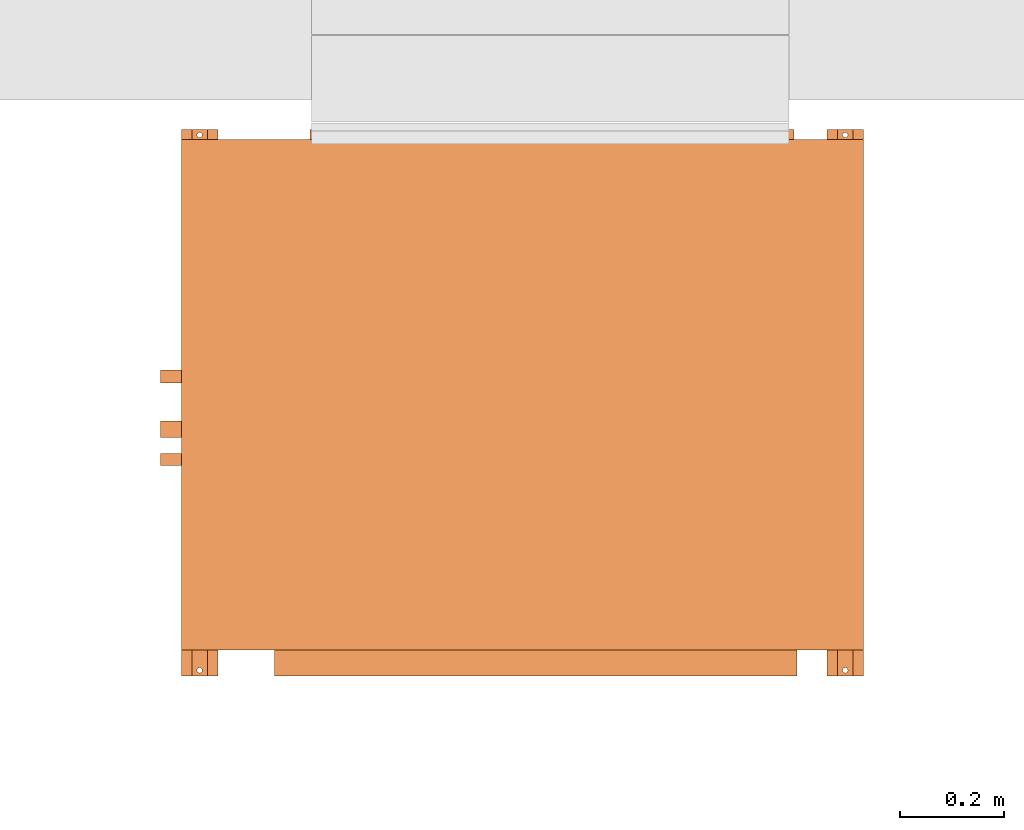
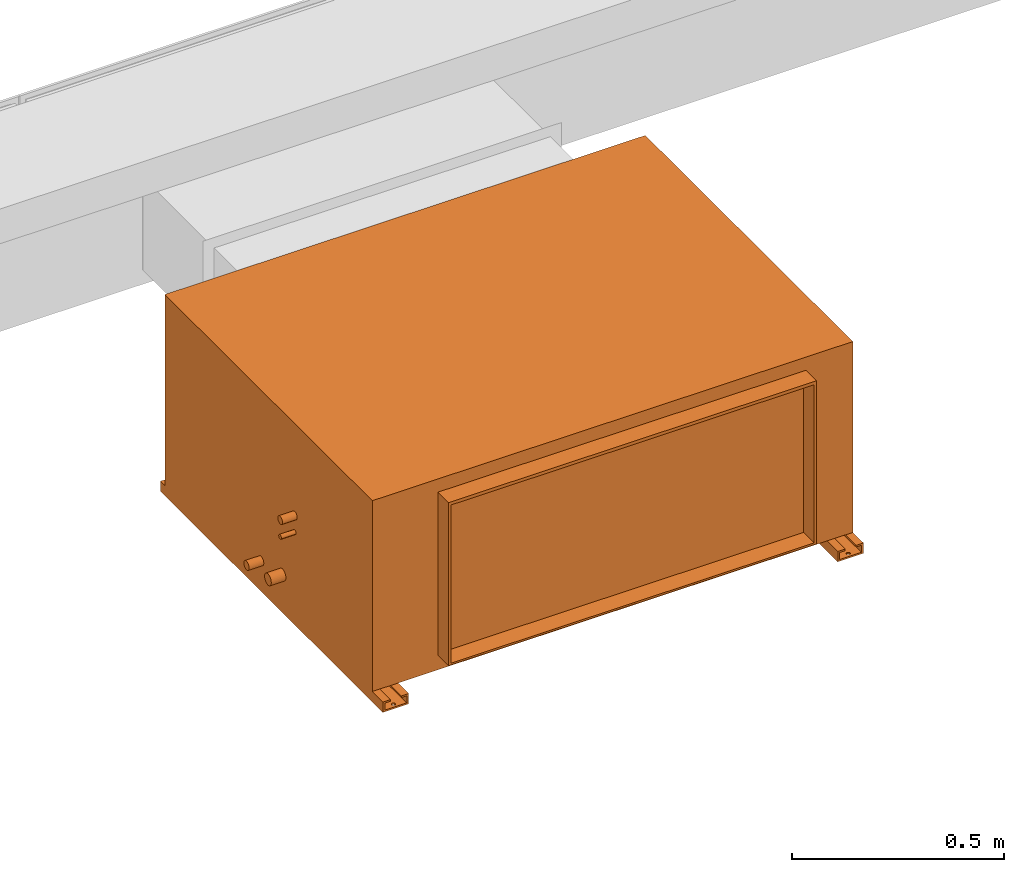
# One storey, part 12 of 15: 1 proxy, 4 openings.
"""IFC2X3 building model written with IfcOpenShell, lengths in millimetres."""

from ifc_helpers import new_model, entity, si_unit, converted_unit, derived_unit, direction, frame, frame_2d, origin, origin_2d_with_axis, place, context, subcontext, project, spatial, polyline, rectangle, circle, outline, extrude, source, transform, mapped, material, material_list, type_object, type_shapes, element, save


model = new_model("IFC2X3")

# Units and contexts
model_context = context("Model", 3, precision=0.01, world=origin(), true_north=direction((6.123233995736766e-17, 1.0)))
body_context = subcontext(model_context, "Body", "Model", "MODEL_VIEW")
ifc_project = project(units=[si_unit("LENGTHUNIT", "METRE", prefix="MILLI"), converted_unit("PLANEANGLEUNIT", "DEGREE", entity("IfcPlaneAngleMeasure", 0.017453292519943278), si_unit("PLANEANGLEUNIT", "RADIAN"), dimensions=[0, 0, 0, 0, 0, 0, 0]), si_unit("AREAUNIT", "SQUARE_METRE"), derived_unit("THERMALTRANSMITTANCEUNIT", [(si_unit("MASSUNIT", "GRAM", prefix="KILO"), 1), (si_unit("THERMODYNAMICTEMPERATUREUNIT", "KELVIN"), -1), (si_unit("TIMEUNIT", "SECOND"), -3)])], contexts=[model_context])

# Site, building, storey
site_placement = place(None, origin())
site = spatial("IfcSite", under=ifc_project, at=site_placement, Name="Default", CompositionType="ELEMENT")
building_placement = place(site_placement, origin())
building = spatial("IfcBuilding", under=site, at=building_placement, Name="Praça Pedro II, 1301 - Centro (Sul), Teresina - PI, 64001-100", CompositionType="ELEMENT")
storey_placement = place(building_placement, frame((0.0, 0.0, 3020.0)))
storey = spatial("IfcBuildingStorey", under=building, at=storey_placement, Name="1PAV", CompositionType="ELEMENT", Elevation=3020.0)

# Proxy, openings
ifc_material_1 = material(Name="Galvanized Steel")
ifc_material_2 = material(Name="grilles：ABS/HIPS")
ifc_material_list = material_list([ifc_material_1, ifc_material_2])
building_element_proxy_type = type_object("IfcBuildingElementProxyType", Name="V8 duto alta 20-33.5kW:28kW", PredefinedType="NOTDEFINED", material=ifc_material_list)
shared_shape = source(origin(), body_context, "Body", "SweptSolid", [
    extrude(outline(polyline([(-19.166666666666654, -35.0), (10.833333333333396, -35.0), (10.833333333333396, -15.0), (5.833333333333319, -15.0), (5.833333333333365, -30.0), (-14.166666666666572, -30.0), (-14.166666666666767, 30.0), (5.8333333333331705, 30.0), (5.833333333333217, 15.0), (10.83333333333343, 15.0), (10.833333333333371, 35.0), (-19.166666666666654, 35.0), (-19.166666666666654, -35.0)])), frame((-620.0, -475.0, 19.166666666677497), z_axis=(0.0, 1.0, 0.0), x_axis=(0.0, 0.0, 1.0)), (0.0, 0.0, 1.0), 1049.9999999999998),
    extrude(outline(polyline([(-35.0, -19.166666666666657), (35.0, -19.166666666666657), (35.0, 10.833333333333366), (15.0, 10.833333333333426), (15.0, 5.833333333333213), (30.0, 5.833333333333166), (30.0, -14.16666666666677), (-30.0, -14.166666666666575), (-30.0, 5.833333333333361), (-15.0, 5.833333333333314), (-15.0, 10.83333333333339), (-35.0, 10.83333333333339), (-35.0, -19.166666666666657)])), frame((620.0, -475.0, 19.16666666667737), z_axis=(0.0, 1.0, 0.0), x_axis=(-1.0, 0.0, 0.0)), (0.0, 0.0, 1.0), 1049.9999999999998),
    extrude(rectangle(XDim=1310.0000000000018, YDim=979.9999999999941, at=frame_2d((-7.389644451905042e-13, 98.0000000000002), x_axis=(1.0, 0.0))), frame((0.0, 133.0, 30.0), z_axis=(0.0, 0.0, 1.0), x_axis=(-1.0, 0.0, 0.0)), (0.0, 0.0, 1.0), 550.0000000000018),
    extrude(circle(Radius=16.0, at=frame_2d((0.0, -3.383959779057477e-14), x_axis=(1.0, 0.0))), frame((650.0, 101.23652360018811, 110.14602759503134), z_axis=(1.0, 0.0, 0.0), x_axis=(0.0, 1.0, 0.0)), (0.0, 0.0, 1.0), 45.000000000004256),
    extrude(circle(Radius=12.5, at=frame_2d((-1.4167645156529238e-16, -1.6919798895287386e-14), x_axis=(1.0, 0.0))), frame((650.0, 0.0, 88.75854730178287), z_axis=(1.0, 0.0, 0.0), x_axis=(0.0, 1.0, 0.0)), (0.0, 0.0, 1.0), 45.00000000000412),
    extrude(outline(polyline([(-501.792, -235.0), (501.7920000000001, -235.0), (501.792, 235.0), (-501.792, 235.0), (-501.792, -235.0)]), holes=[polyline([(-495.189897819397, -226.0), (-495.1898978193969, 230.0), (494.8099961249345, 230.0), (494.8099961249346, -226.0), (-495.189897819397, -226.0)])]), frame((-25.20800000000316, 525.0, 307.0), z_axis=(0.0, 1.0, 0.0), x_axis=(1.0, 0.0, 0.0)), (0.0, 0.0, 1.0), 50.00000000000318),
    extrude(circle(Radius=6.35, at=frame_2d((0.0, -3.383959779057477e-14), x_axis=(1.0, 0.0))), frame((650.0, 158.3867710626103, 267.5678621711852), z_axis=(1.0, 0.0, 0.0), x_axis=(0.0, 1.0, 0.0)), (0.0, 0.0, 1.0), 45.000000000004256),
    extrude(circle(Radius=11.1, at=frame_2d((0.0, -6.767919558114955e-14), x_axis=(1.0, 0.0))), frame((650.0, 159.18274708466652, 316.10525776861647), z_axis=(1.0, 0.0, 0.0), x_axis=(0.0, 1.0, 0.0)), (0.0, 0.0, 1.0), 45.000000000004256),
    extrude(outline(polyline([(-140.29102983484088, -161.96563966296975), (140.29102983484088, -161.96563966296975), (140.29102983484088, 161.96563966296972), (-140.29102983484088, 161.96563966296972), (-140.29102983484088, -161.96563966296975)]), holes=[polyline([(-134.51017683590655, -155.65064266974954), (-134.51017683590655, 155.34960360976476), (133.47606684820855, 155.3496036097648), (133.47606684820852, -155.6506426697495), (-134.51017683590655, -155.65064266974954)])]), frame((-360.03966162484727, -475.0, 370.9802738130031), z_axis=(0.0, 1.0, 0.0), x_axis=(0.0, 0.0, -1.0)), (0.0, 0.0, 1.0), 19.999999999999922),
    extrude(outline(polyline([(-140.29102983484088, -161.96563966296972), (140.29102983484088, -161.96563966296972), (140.29102983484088, 161.96563966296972), (-140.29102983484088, 161.96563966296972), (-140.29102983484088, -161.96563966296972)]), holes=[polyline([(-134.51017683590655, -155.6506426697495), (-134.51017683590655, 155.3496036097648), (133.47606684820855, 155.3496036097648), (133.47606684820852, -155.6506426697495), (-134.51017683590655, -155.6506426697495)])]), frame((245.9603383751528, -475.0, 370.9802738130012), z_axis=(0.0, 1.0, 0.0), x_axis=(0.0, 0.0, -1.0)), (0.0, 0.0, 1.0), 19.999999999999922),
])
type_shapes(building_element_proxy_type, [shared_shape])
proxy_placement = place(storey_placement, frame((8333.909193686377, -67125.97124597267, 628.5026711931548), z_axis=(0.0, 0.0, 1.0), x_axis=(-1.0, 0.0, 0.0)))
proxy = element("IfcBuildingElementProxy", 1, at=proxy_placement, inside=storey, type_object=building_element_proxy_type, material=ifc_material_list, Name="V8 duto alta 20-33.5kW:28kW", ObjectType="V8 duto alta 20-33.5kW:28kW", context=body_context, shape_type="MappedRepresentation", body=[
    mapped(shared_shape, transform((0.0, 0.0, 0.0), scale=1.0)),
])
opening_1_placement = place(storey_placement, frame((8333.909193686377, -67125.97124597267, 3648.5026711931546)))
element("IfcOpeningElement", 2, at=opening_1_placement, cuts=proxy, Name="V8 duto alta 20-33.5kW:28kW:1", ObjectType="Opening", context=body_context, shape_type="SweptSolid", body=[
    extrude(circle(Radius=5.000000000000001, at=origin_2d_with_axis()), frame((-620.0, 464.0, -3020.0), z_axis=(0.0, 0.0, 1.0), x_axis=(0.0, -1.0, 0.0)), (0.0, 0.0, 1.0), 4.999999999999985),
])
opening_2_placement = place(storey_placement, frame((8333.909193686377, -67125.97124597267, 3648.5026711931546)))
element("IfcOpeningElement", 3, at=opening_2_placement, cuts=proxy, Name="V8 duto alta 20-33.5kW:28kW:2", ObjectType="Opening", context=body_context, shape_type="SweptSolid", body=[
    extrude(circle(Radius=5.0, at=origin_2d_with_axis()), frame((-620.0, -564.0, -3020.0), z_axis=(0.0, 0.0, 1.0), x_axis=(0.0, -1.0, 0.0)), (0.0, 0.0, 1.0), 4.999999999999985),
])
opening_3_placement = place(storey_placement, frame((8333.909193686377, -67125.97124597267, 3648.5026711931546)))
element("IfcOpeningElement", 4, at=opening_3_placement, cuts=proxy, Name="V8 duto alta 20-33.5kW:28kW:3", ObjectType="Opening", context=body_context, shape_type="SweptSolid", body=[
    extrude(circle(Radius=5.000000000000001, at=origin_2d_with_axis()), frame((620.0, 464.0, -3015.0), z_axis=(0.0, 0.0, -1.0), x_axis=(0.0, -1.0, 0.0)), (0.0, 0.0, 1.0), 4.999999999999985),
])
opening_4_placement = place(storey_placement, frame((8333.909193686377, -67125.97124597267, 3648.5026711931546)))
element("IfcOpeningElement", 5, at=opening_4_placement, cuts=proxy, Name="V8 duto alta 20-33.5kW:28kW:4", ObjectType="Opening", context=body_context, shape_type="SweptSolid", body=[
    extrude(circle(Radius=5.0, at=origin_2d_with_axis()), frame((620.0, -564.0, -3015.0), z_axis=(0.0, 0.0, -1.0), x_axis=(0.0, -1.0, 0.0)), (0.0, 0.0, 1.0), 4.999999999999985),
])

save(model, "model.ifc")
